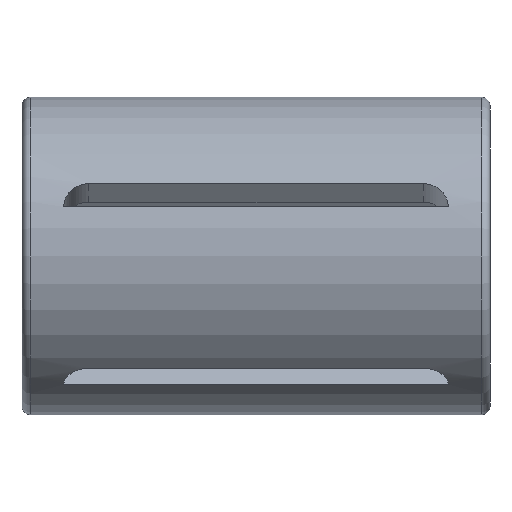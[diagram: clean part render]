
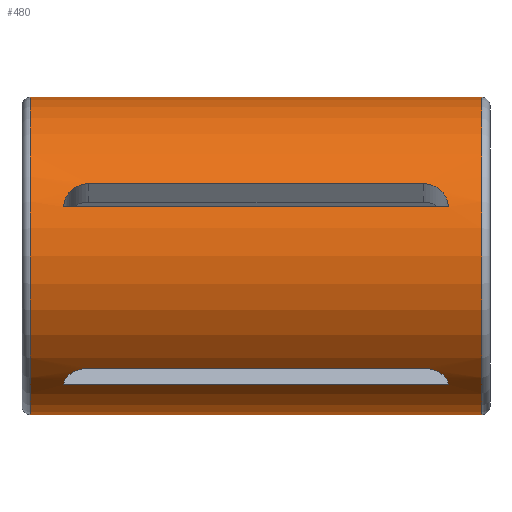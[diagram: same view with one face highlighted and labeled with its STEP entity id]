
A CAD part, front view. The second image highlights one B-rep face of the part: STEP entity #480.
In plain terms, the highlighted cylindrical face has radius 9.5 mm (diameter 19 mm), a full revolution.
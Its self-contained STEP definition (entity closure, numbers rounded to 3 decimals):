
#34=CIRCLE('',#520,9.5);
#35=CIRCLE('',#521,9.5);
#40=LINE('',#666,#80);
#41=LINE('',#674,#81);
#42=LINE('',#682,#82);
#43=LINE('',#690,#83);
#44=LINE('',#702,#84);
#45=LINE('',#710,#85);
#46=LINE('',#718,#86);
#47=LINE('',#726,#87);
#48=LINE('',#734,#88);
#49=LINE('',#742,#89);
#80=VECTOR('',#555,1000.);
#81=VECTOR('',#556,1000.);
#82=VECTOR('',#557,1000.);
#83=VECTOR('',#558,1000.);
#84=VECTOR('',#563,1000.);
#85=VECTOR('',#564,1000.);
#86=VECTOR('',#565,1000.);
#87=VECTOR('',#566,1000.);
#88=VECTOR('',#567,1000.);
#89=VECTOR('',#568,1000.);
#120=ORIENTED_EDGE('',*,*,#252,.T.);
#121=ORIENTED_EDGE('',*,*,#253,.T.);
#122=ORIENTED_EDGE('',*,*,#254,.T.);
#123=ORIENTED_EDGE('',*,*,#255,.T.);
#124=ORIENTED_EDGE('',*,*,#256,.T.);
#125=ORIENTED_EDGE('',*,*,#257,.T.);
#126=ORIENTED_EDGE('',*,*,#258,.T.);
#127=ORIENTED_EDGE('',*,*,#259,.T.);
#128=ORIENTED_EDGE('',*,*,#260,.T.);
#129=ORIENTED_EDGE('',*,*,#261,.T.);
#130=ORIENTED_EDGE('',*,*,#262,.T.);
#131=ORIENTED_EDGE('',*,*,#263,.T.);
#132=ORIENTED_EDGE('',*,*,#264,.T.);
#133=ORIENTED_EDGE('',*,*,#265,.T.);
#134=ORIENTED_EDGE('',*,*,#266,.T.);
#135=ORIENTED_EDGE('',*,*,#267,.T.);
#136=ORIENTED_EDGE('',*,*,#268,.T.);
#137=ORIENTED_EDGE('',*,*,#269,.T.);
#138=ORIENTED_EDGE('',*,*,#270,.T.);
#139=ORIENTED_EDGE('',*,*,#271,.T.);
#140=ORIENTED_EDGE('',*,*,#272,.T.);
#141=ORIENTED_EDGE('',*,*,#273,.T.);
#252=EDGE_CURVE('',#318,#319,#364,.T.);
#253=EDGE_CURVE('',#319,#320,#40,.F.);
#254=EDGE_CURVE('',#320,#321,#365,.T.);
#255=EDGE_CURVE('',#321,#318,#41,.T.);
#256=EDGE_CURVE('',#322,#323,#366,.T.);
#257=EDGE_CURVE('',#323,#324,#42,.F.);
#258=EDGE_CURVE('',#324,#325,#367,.T.);
#259=EDGE_CURVE('',#325,#322,#43,.T.);
#260=EDGE_CURVE('',#326,#326,#34,.T.);
#261=EDGE_CURVE('',#327,#327,#35,.F.);
#262=EDGE_CURVE('',#328,#329,#368,.T.);
#263=EDGE_CURVE('',#329,#330,#44,.F.);
#264=EDGE_CURVE('',#330,#331,#369,.T.);
#265=EDGE_CURVE('',#331,#328,#45,.T.);
#266=EDGE_CURVE('',#332,#333,#370,.T.);
#267=EDGE_CURVE('',#333,#334,#46,.F.);
#268=EDGE_CURVE('',#334,#335,#371,.T.);
#269=EDGE_CURVE('',#335,#332,#47,.T.);
#270=EDGE_CURVE('',#336,#337,#372,.T.);
#271=EDGE_CURVE('',#337,#338,#48,.F.);
#272=EDGE_CURVE('',#338,#339,#373,.T.);
#273=EDGE_CURVE('',#339,#336,#49,.T.);
#318=VERTEX_POINT('',#664);
#319=VERTEX_POINT('',#665);
#320=VERTEX_POINT('',#667);
#321=VERTEX_POINT('',#673);
#322=VERTEX_POINT('',#680);
#323=VERTEX_POINT('',#681);
#324=VERTEX_POINT('',#683);
#325=VERTEX_POINT('',#689);
#326=VERTEX_POINT('',#692);
#327=VERTEX_POINT('',#694);
#328=VERTEX_POINT('',#700);
#329=VERTEX_POINT('',#701);
#330=VERTEX_POINT('',#703);
#331=VERTEX_POINT('',#709);
#332=VERTEX_POINT('',#716);
#333=VERTEX_POINT('',#717);
#334=VERTEX_POINT('',#719);
#335=VERTEX_POINT('',#725);
#336=VERTEX_POINT('',#732);
#337=VERTEX_POINT('',#733);
#338=VERTEX_POINT('',#735);
#339=VERTEX_POINT('',#741);
#364=B_SPLINE_CURVE_WITH_KNOTS('',3,(#659,#660,#661,#662,#663),
 .UNSPECIFIED.,.F.,.F.,(4,1,4),(0.,0.001,
0.002),.UNSPECIFIED.);
#365=B_SPLINE_CURVE_WITH_KNOTS('',3,(#668,#669,#670,#671,#672),
 .UNSPECIFIED.,.F.,.F.,(4,1,4),(0.,0.001,0.002),
 .UNSPECIFIED.);
#366=B_SPLINE_CURVE_WITH_KNOTS('',3,(#675,#676,#677,#678,#679),
 .UNSPECIFIED.,.F.,.F.,(4,1,4),(0.,0.001,
0.002),.UNSPECIFIED.);
#367=B_SPLINE_CURVE_WITH_KNOTS('',3,(#684,#685,#686,#687,#688),
 .UNSPECIFIED.,.F.,.F.,(4,1,4),(0.,0.001,0.002),
 .UNSPECIFIED.);
#368=B_SPLINE_CURVE_WITH_KNOTS('',3,(#695,#696,#697,#698,#699),
 .UNSPECIFIED.,.F.,.F.,(4,1,4),(0.,0.001,
0.002),.UNSPECIFIED.);
#369=B_SPLINE_CURVE_WITH_KNOTS('',3,(#704,#705,#706,#707,#708),
 .UNSPECIFIED.,.F.,.F.,(4,1,4),(0.,0.001,0.002),
 .UNSPECIFIED.);
#370=B_SPLINE_CURVE_WITH_KNOTS('',3,(#711,#712,#713,#714,#715),
 .UNSPECIFIED.,.F.,.F.,(4,1,4),(0.,0.001,
0.002),.UNSPECIFIED.);
#371=B_SPLINE_CURVE_WITH_KNOTS('',3,(#720,#721,#722,#723,#724),
 .UNSPECIFIED.,.F.,.F.,(4,1,4),(0.,0.001,0.002),
 .UNSPECIFIED.);
#372=B_SPLINE_CURVE_WITH_KNOTS('',3,(#727,#728,#729,#730,#731),
 .UNSPECIFIED.,.F.,.F.,(4,1,4),(0.,0.001,0.002),
 .UNSPECIFIED.);
#373=B_SPLINE_CURVE_WITH_KNOTS('',3,(#736,#737,#738,#739,#740),
 .UNSPECIFIED.,.F.,.F.,(4,1,4),(0.,0.001,0.002),
 .UNSPECIFIED.);
#384=EDGE_LOOP('',(#120,#121,#122,#123));
#385=EDGE_LOOP('',(#124,#125,#126,#127));
#386=EDGE_LOOP('',(#128));
#387=EDGE_LOOP('',(#129));
#388=EDGE_LOOP('',(#130,#131,#132,#133));
#389=EDGE_LOOP('',(#134,#135,#136,#137));
#390=EDGE_LOOP('',(#138,#139,#140,#141));
#426=FACE_BOUND('',#384,.T.);
#427=FACE_BOUND('',#385,.T.);
#428=FACE_BOUND('',#386,.T.);
#429=FACE_BOUND('',#387,.T.);
#430=FACE_BOUND('',#388,.T.);
#431=FACE_BOUND('',#389,.T.);
#432=FACE_BOUND('',#390,.T.);
#468=CYLINDRICAL_SURFACE('',#519,9.5);
#480=ADVANCED_FACE('',(#426,#427,#428,#429,#430,#431,#432),#468,.T.);
#519=AXIS2_PLACEMENT_3D('',#658,#553,#554);
#520=AXIS2_PLACEMENT_3D('',#691,#559,#560);
#521=AXIS2_PLACEMENT_3D('',#693,#561,#562);
#553=DIRECTION('',(-1.,0.,0.));
#554=DIRECTION('',(0.,0.,1.));
#555=DIRECTION('',(-1.,0.,0.));
#556=DIRECTION('',(-1.,0.,0.));
#557=DIRECTION('',(-1.,0.,0.));
#558=DIRECTION('',(-1.,0.,0.));
#559=DIRECTION('',(1.,0.,0.));
#560=DIRECTION('',(0.,0.,-1.));
#561=DIRECTION('',(1.,0.,0.));
#562=DIRECTION('',(0.,0.,-1.));
#563=DIRECTION('',(-1.,0.,0.));
#564=DIRECTION('',(-1.,0.,0.));
#565=DIRECTION('',(-1.,0.,0.));
#566=DIRECTION('',(-1.,0.,0.));
#567=DIRECTION('',(-1.,0.,0.));
#568=DIRECTION('',(-1.,0.,0.));
#658=CARTESIAN_POINT('',(14.,0.,0.));
#659=CARTESIAN_POINT('',(-11.5,-5.584,-7.686));
#660=CARTESIAN_POINT('',(-11.5,-5.905,-7.452));
#661=CARTESIAN_POINT('',(-11.174,-6.498,-6.949));
#662=CARTESIAN_POINT('',(-10.397,-6.727,-6.708));
#663=CARTESIAN_POINT('',(-10.,-6.727,-6.708));
#664=CARTESIAN_POINT('',(-11.5,-5.584,-7.686));
#665=CARTESIAN_POINT('',(-10.,-6.727,-6.708));
#666=CARTESIAN_POINT('',(14.,-6.727,-6.708));
#667=CARTESIAN_POINT('',(10.,-6.727,-6.708));
#668=CARTESIAN_POINT('',(10.,-6.727,-6.708));
#669=CARTESIAN_POINT('',(10.397,-6.727,-6.708));
#670=CARTESIAN_POINT('',(11.172,-6.499,-6.948));
#671=CARTESIAN_POINT('',(11.5,-5.905,-7.452));
#672=CARTESIAN_POINT('',(11.5,-5.584,-7.686));
#673=CARTESIAN_POINT('',(11.5,-5.584,-7.686));
#674=CARTESIAN_POINT('',(14.,-5.584,-7.686));
#675=CARTESIAN_POINT('',(-11.5,9.035,2.936));
#676=CARTESIAN_POINT('',(-11.5,9.158,2.558));
#677=CARTESIAN_POINT('',(-11.174,9.341,1.803));
#678=CARTESIAN_POINT('',(-10.397,9.385,1.472));
#679=CARTESIAN_POINT('',(-10.,9.385,1.472));
#680=CARTESIAN_POINT('',(-11.5,9.035,2.936));
#681=CARTESIAN_POINT('',(-10.,9.385,1.472));
#682=CARTESIAN_POINT('',(14.,9.385,1.472));
#683=CARTESIAN_POINT('',(10.,9.385,1.472));
#684=CARTESIAN_POINT('',(10.,9.385,1.472));
#685=CARTESIAN_POINT('',(10.397,9.385,1.472));
#686=CARTESIAN_POINT('',(11.172,9.341,1.801));
#687=CARTESIAN_POINT('',(11.5,9.158,2.558));
#688=CARTESIAN_POINT('',(11.5,9.035,2.936));
#689=CARTESIAN_POINT('',(11.5,9.035,2.936));
#690=CARTESIAN_POINT('',(14.,9.035,2.936));
#691=CARTESIAN_POINT('',(-13.5,0.,0.));
#692=CARTESIAN_POINT('',(-13.5,0.,-9.5));
#693=CARTESIAN_POINT('',(13.5,0.,0.));
#694=CARTESIAN_POINT('',(13.5,0.,-9.5));
#695=CARTESIAN_POINT('',(-11.5,0.,9.5));
#696=CARTESIAN_POINT('',(-11.5,0.397,9.5));
#697=CARTESIAN_POINT('',(-11.174,1.172,9.441));
#698=CARTESIAN_POINT('',(-10.397,1.5,9.381));
#699=CARTESIAN_POINT('',(-10.,1.5,9.381));
#700=CARTESIAN_POINT('',(-11.5,0.,9.5));
#701=CARTESIAN_POINT('',(-10.,1.5,9.381));
#702=CARTESIAN_POINT('',(14.,1.5,9.381));
#703=CARTESIAN_POINT('',(10.,1.5,9.381));
#704=CARTESIAN_POINT('',(10.,1.5,9.381));
#705=CARTESIAN_POINT('',(10.397,1.5,9.381));
#706=CARTESIAN_POINT('',(11.172,1.174,9.441));
#707=CARTESIAN_POINT('',(11.5,0.397,9.5));
#708=CARTESIAN_POINT('',(11.5,0.,9.5));
#709=CARTESIAN_POINT('',(11.5,0.,9.5));
#710=CARTESIAN_POINT('',(14.,0.,9.5));
#711=CARTESIAN_POINT('',(-11.5,5.584,-7.686));
#712=CARTESIAN_POINT('',(-11.5,5.263,-7.919));
#713=CARTESIAN_POINT('',(-11.174,4.601,-8.327));
#714=CARTESIAN_POINT('',(-10.397,4.3,-8.471));
#715=CARTESIAN_POINT('',(-10.,4.3,-8.471));
#716=CARTESIAN_POINT('',(-11.5,5.584,-7.686));
#717=CARTESIAN_POINT('',(-10.,4.3,-8.471));
#718=CARTESIAN_POINT('',(14.,4.3,-8.471));
#719=CARTESIAN_POINT('',(10.,4.3,-8.471));
#720=CARTESIAN_POINT('',(10.,4.3,-8.471));
#721=CARTESIAN_POINT('',(10.397,4.3,-8.471));
#722=CARTESIAN_POINT('',(11.172,4.6,-8.328));
#723=CARTESIAN_POINT('',(11.5,5.263,-7.919));
#724=CARTESIAN_POINT('',(11.5,5.584,-7.686));
#725=CARTESIAN_POINT('',(11.5,5.584,-7.686));
#726=CARTESIAN_POINT('',(14.,5.584,-7.686));
#727=CARTESIAN_POINT('',(-11.5,-9.035,2.936));
#728=CARTESIAN_POINT('',(-11.5,-8.912,3.313));
#729=CARTESIAN_POINT('',(-11.174,-8.617,4.032));
#730=CARTESIAN_POINT('',(-10.397,-8.458,4.325));
#731=CARTESIAN_POINT('',(-10.,-8.458,4.325));
#732=CARTESIAN_POINT('',(-11.5,-9.035,2.936));
#733=CARTESIAN_POINT('',(-10.,-8.458,4.325));
#734=CARTESIAN_POINT('',(14.,-8.458,4.325));
#735=CARTESIAN_POINT('',(10.,-8.458,4.325));
#736=CARTESIAN_POINT('',(10.,-8.458,4.325));
#737=CARTESIAN_POINT('',(10.397,-8.458,4.325));
#738=CARTESIAN_POINT('',(11.172,-8.616,4.034));
#739=CARTESIAN_POINT('',(11.5,-8.912,3.313));
#740=CARTESIAN_POINT('',(11.5,-9.035,2.936));
#741=CARTESIAN_POINT('',(11.5,-9.035,2.936));
#742=CARTESIAN_POINT('',(14.,-9.035,2.936));
